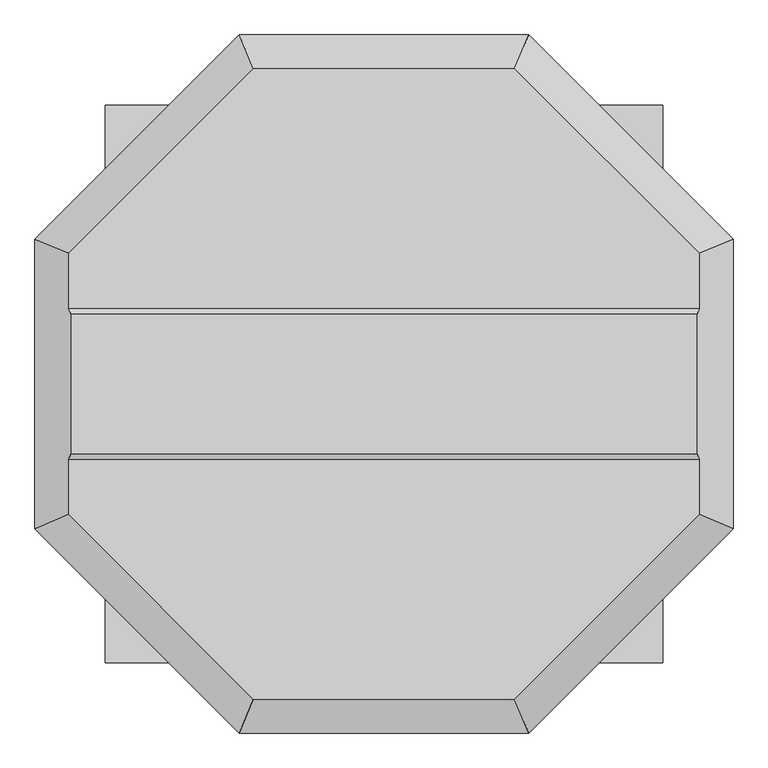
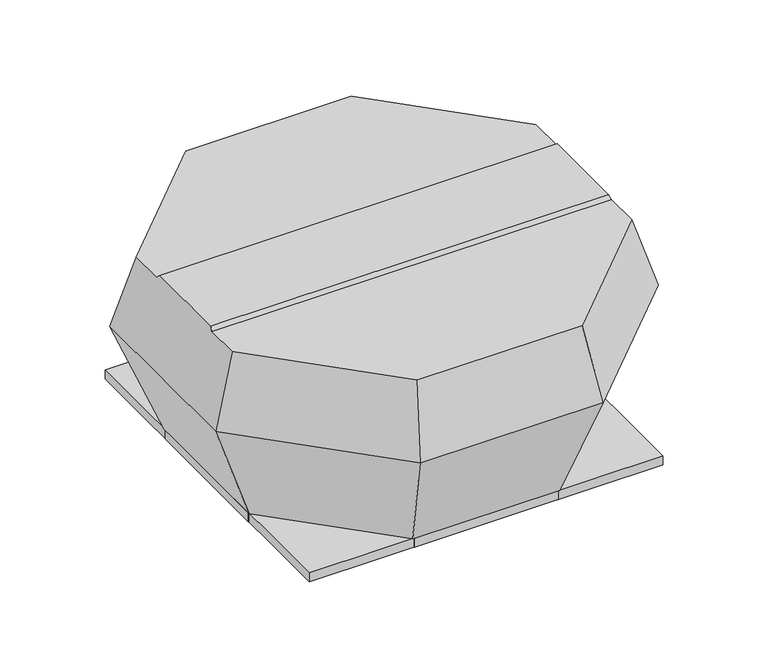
"""IFC4 building model written with IfcOpenShell, lengths in millimetres: unitary equipment geometry, VE-Wentylator-ParaForma-Harmann-VIVO-Wywiewny : 4-560/11900T."""

from ifc_helpers import new_model, si_unit, origin, place, context, project, spatial, faceted_brep, source, transform, mapped, element, save


def unitary_equipment_e736b663(model_context):
    return source(origin(), model_context, "Body", "Brep", [
        faceted_brep([(523.3440313, -116.75, 497.3), (523.3440313, 116.75, 497.3), (-523.3440313, 116.75, 497.3), (-523.3440313, -116.75, 497.3), (526.0571352, 125.75, 488.3), (-526.0571352, 125.75, 488.3), (526.0571352, -125.75, 488.3), (-526.0571352, -125.75, 488.3), (217.9, -526.0571352, 488.3), (526.0571352, -217.9, 488.3), (-526.0571352, -217.9, 488.3), (-217.9, -526.0571352, 488.3), (526.0571352, 217.9, 488.3), (217.9, 526.0571352, 488.3), (-217.9, 526.0571352, 488.3), (-526.0571352, 217.9, 488.3), (241.4, -582.791154, 300.1), (582.791154, -241.4, 300.1), (582.791154, 241.4, 300.1), (241.4, 582.791154, 300.1), (-241.4, 582.791154, 300.1), (-582.791154, 241.4, 300.1), (-582.791154, -241.4, 300.1), (-241.4, -582.791154, 300.1), (193.3, -466.6674816, 1.5), (-193.3, -466.6674816, 1.5), (-466.6674816, -193.3, 1.5), (-466.6674816, 193.3, 1.5), (-193.3, 466.6674816, 1.5), (193.3, 466.6674816, 1.5), (466.6674816, 193.3, 1.5), (466.6674816, -193.3, 1.5)], [[[0, 1, 2, 3]], [[1, 4, 5, 2]], [[6, 0, 3, 7]], [[8, 9, 6, 7, 10, 11]], [[12, 13, 14, 15, 5, 4]], [[9, 8, 16, 17]], [[9, 17, 18, 12, 4, 1, 0, 6]], [[13, 12, 18, 19]], [[14, 13, 19, 20]], [[15, 14, 20, 21]], [[15, 21, 22, 10, 7, 3, 2, 5]], [[11, 10, 22, 23]], [[8, 11, 23, 16]], [[24, 25, 26, 27, 28, 29, 30, 31]], [[24, 31, 17, 16]], [[31, 30, 18, 17]], [[30, 29, 19, 18]], [[29, 28, 20, 19]], [[28, 27, 21, 20]], [[27, 26, 22, 21]], [[26, 25, 23, 22]], [[25, 24, 16, 23]]]),
        faceted_brep([(464.05, 464.05, -23.5), (464.05, 464.05, 0.0), (-464.05, 464.05, 0.0), (-464.05, 464.05, -23.5), (465.55, 465.55, 1.5), (465.55, 465.55, -23.5), (-465.55, 465.55, -23.5), (-465.55, 465.55, 1.5), (-464.05, -464.05, 0.0), (-464.05, -464.05, -23.5), (-465.55, -465.55, -23.5), (-465.55, -465.55, 1.5), (464.05, -464.05, 0.0), (464.05, -464.05, -23.5), (465.55, -465.55, -23.5), (465.55, -465.55, 1.5)], [[[0, 1, 2, 3]], [[4, 5, 6, 7]], [[3, 2, 8, 9]], [[7, 6, 10, 11]], [[9, 8, 12, 13]], [[11, 10, 14, 15]], [[13, 12, 1, 0]], [[5, 14, 10, 6], [3, 9, 13, 0]], [[15, 14, 5, 4]], [[7, 11, 15, 4]], [[1, 12, 8, 2]]]),
        faceted_brep([(-465.6, -190.1, -23.5), (-466.6, -190.1, -23.5), (-466.6, 190.1, -23.5), (-465.6, 190.1, -23.5), (-465.6, -190.1, 1.5), (-465.6, 190.1, 1.5), (-466.6, 190.1, 1.5), (-466.6, -190.1, 1.5)], [[[0, 1, 2, 3]], [[4, 5, 6, 7]], [[1, 0, 4, 7]], [[2, 1, 7, 6]], [[3, 2, 6, 5]], [[0, 3, 5, 4]]]),
        faceted_brep([(466.6, -190.1, -23.5), (465.6, -190.1, -23.5), (465.6, 190.1, -23.5), (466.6, 190.1, -23.5), (466.6, 190.1, 1.5), (465.6, 190.1, 1.5), (465.6, 5.0, 1.5), (465.6, -5.0, 1.5), (465.6, -190.1, 1.5), (466.6, -190.1, 1.5), (466.6, -5.0, 1.5), (466.6, 5.0, 1.5)], [[[0, 1, 2, 3]], [[4, 5, 6, 7, 8, 9, 10, 11]], [[1, 0, 9, 8]], [[2, 1, 8, 7, 6, 5]], [[3, 2, 5, 4]], [[0, 3, 4, 11, 10, 9]]]),
        faceted_brep([(190.1, 465.6, -23.5), (-190.1, 465.6, -23.5), (-190.1, 466.6, -23.5), (190.1, 466.6, -23.5), (190.1, 465.6, 1.5), (190.1, 466.6, 1.5), (-190.1, 466.6, 1.5), (-190.1, 465.6, 1.5)], [[[0, 1, 2, 3]], [[4, 5, 6, 7]], [[1, 0, 4, 7]], [[2, 1, 7, 6]], [[3, 2, 6, 5]], [[0, 3, 5, 4]]]),
        faceted_brep([(190.1, -466.6, -23.5), (-190.1, -466.6, -23.5), (-190.1, -465.6, -23.5), (190.1, -465.6, -23.5), (190.1, -466.6, 1.5), (190.1, -465.6, 1.5), (-190.1, -465.6, 1.5), (-190.1, -466.6, 1.5)], [[[0, 1, 2, 3]], [[4, 5, 6, 7]], [[1, 0, 4, 7]], [[2, 1, 7, 6]], [[3, 2, 6, 5]], [[0, 3, 5, 4]]]),
    ])


if __name__ == "__main__":
    model = new_model("IFC4")
    model_context = context("Model", 3, world=origin())
    ifc_project = project(units=[si_unit("LENGTHUNIT", "METRE", prefix="MILLI")], contexts=[model_context])
    site = spatial("IfcSite", under=ifc_project)
    building = spatial("IfcBuilding", under=site)
    placement = place(None, origin())
    unitary_equipment_shape = unitary_equipment_e736b663(model_context)
    element("IfcUnitaryEquipment", 1, ObjectType="VE-Wentylator-ParaForma-Harmann-VIVO-Wywiewny : 4-560/11900T", at=placement, inside=building, context=model_context, shape_type="MappedRepresentation", body=[
        mapped(unitary_equipment_shape, transform((0.0, 0.0, 0.0), x_axis=(1.0, 0.0, 0.0), y_axis=(0.0, 1.0, 0.0), z_axis=(0.0, 0.0, 1.0))),
    ])
    save(model, "model.ifc")
